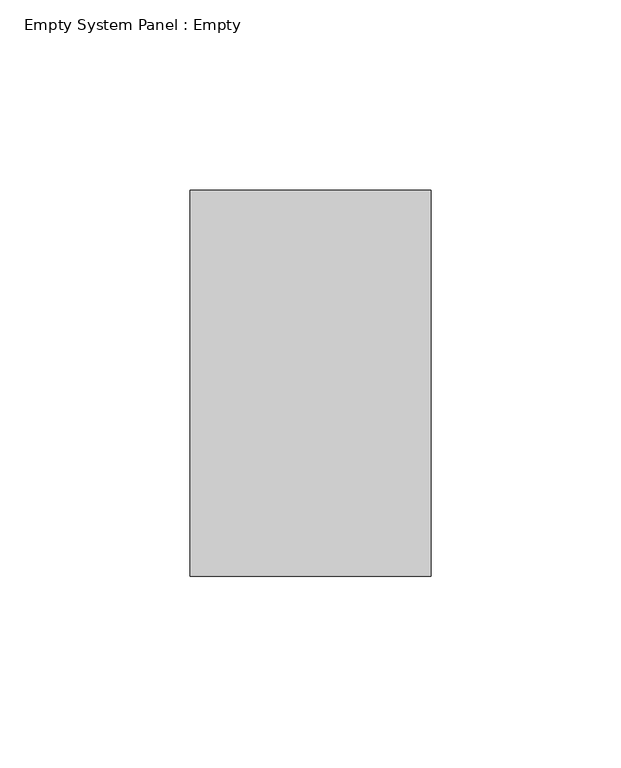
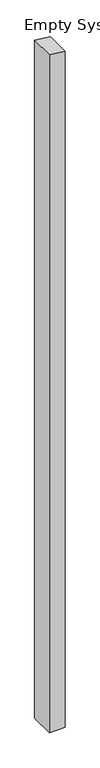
"""IFC4 building model written with IfcOpenShell, lengths in millimetres: plate geometry, Empty System Panel : Empty."""

from ifc_helpers import new_model, si_unit, frame, origin, place, context, project, spatial, polyline, outline, extrude, source, transform, mapped, element, save


def empty_system_panel_empty_0a2ae4b1(model_context):
    return source(origin(), model_context, "Body", "SweptSolid", [
        extrude(outline(polyline([(0.0, -31.75), (0.0, 31.75), (2869.1991533, 31.75), (2876.3015124, -31.75), (0.0, -31.75)])), frame((0.0, -50.8, 0.0), z_axis=(0.0, 1.0, 0.0), x_axis=(0.0, 0.0, 1.0)), (0.0, 0.0, 1.0), 101.6),
    ])


if __name__ == "__main__":
    model = new_model("IFC4")
    model_context = context("Model", 3, world=origin())
    ifc_project = project(units=[si_unit("LENGTHUNIT", "METRE", prefix="MILLI")], contexts=[model_context])
    site = spatial("IfcSite", under=ifc_project)
    building = spatial("IfcBuilding", under=site)
    placement = place(None, origin())
    empty_system_panel_empty_shape = empty_system_panel_empty_0a2ae4b1(model_context)
    element("IfcPlate", 1, ObjectType="Empty System Panel : Empty", at=placement, inside=building, context=model_context, shape_type="MappedRepresentation", body=[
        mapped(empty_system_panel_empty_shape, transform((0.0, 0.0, 0.0), x_axis=(1.0, 0.0, 0.0), y_axis=(0.0, 1.0, 0.0), z_axis=(0.0, 0.0, 1.0))),
    ])
    save(model, "model.ifc")
